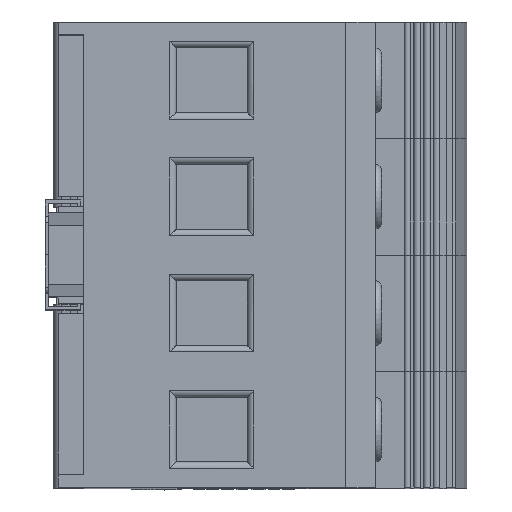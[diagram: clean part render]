
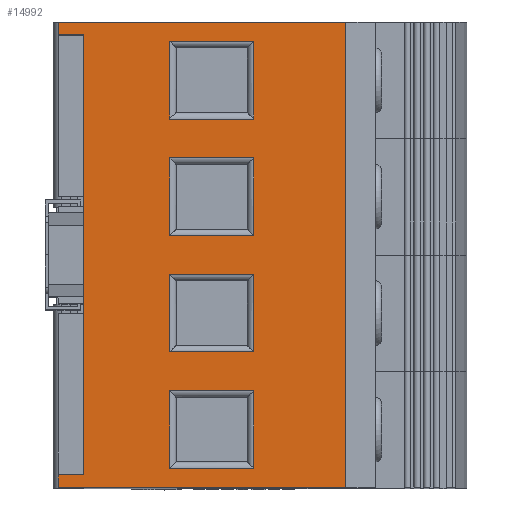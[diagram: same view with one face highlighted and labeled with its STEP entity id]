
A CAD part, top view. The second image highlights one B-rep face of the part: STEP entity #14992.
In plain terms, the highlighted planar face has unit normal (0, 0, 1).
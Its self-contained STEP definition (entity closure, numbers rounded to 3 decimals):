
#14785=CARTESIAN_POINT('',(-14.5,-36.,45.));
#14786=DIRECTION('',(0.,-0.,1.));
#14787=DIRECTION('',(-1.,0.,0.));
#14788=AXIS2_PLACEMENT_3D('',#14785,#14786,#14787);
#14789=PLANE('',#14788);
#14790=CARTESIAN_POINT('',(11.75,-21.,45.));
#14791=VERTEX_POINT('',#14790);
#14792=CARTESIAN_POINT('',(11.75,-33.,45.));
#14793=VERTEX_POINT('',#14792);
#14794=CARTESIAN_POINT('',(11.75,-21.,45.));
#14795=DIRECTION('',(0.,-1.,-0.));
#14796=VECTOR('',#14795,12.);
#14797=LINE('',#14794,#14796);
#14798=EDGE_CURVE('',#14791,#14793,#14797,.T.);
#14799=ORIENTED_EDGE('',*,*,#14798,.T.);
#14800=CARTESIAN_POINT('',(-1.25,-33.,45.));
#14801=VERTEX_POINT('',#14800);
#14802=CARTESIAN_POINT('',(11.75,-33.,45.));
#14803=DIRECTION('',(-1.,0.,0.));
#14804=VECTOR('',#14803,13.);
#14805=LINE('',#14802,#14804);
#14806=EDGE_CURVE('',#14793,#14801,#14805,.T.);
#14807=ORIENTED_EDGE('',*,*,#14806,.T.);
#14808=CARTESIAN_POINT('',(-1.25,-21.,45.));
#14809=VERTEX_POINT('',#14808);
#14810=CARTESIAN_POINT('',(-1.25,-33.,45.));
#14811=DIRECTION('',(-0.,1.,0.));
#14812=VECTOR('',#14811,12.);
#14813=LINE('',#14810,#14812);
#14814=EDGE_CURVE('',#14801,#14809,#14813,.T.);
#14815=ORIENTED_EDGE('',*,*,#14814,.T.);
#14816=CARTESIAN_POINT('',(-1.25,-21.,45.));
#14817=DIRECTION('',(1.,-0.,-0.));
#14818=VECTOR('',#14817,13.);
#14819=LINE('',#14816,#14818);
#14820=EDGE_CURVE('',#14809,#14791,#14819,.T.);
#14821=ORIENTED_EDGE('',*,*,#14820,.T.);
#14822=EDGE_LOOP('',(#14799,#14807,#14815,#14821));
#14823=FACE_BOUND('',#14822,.T.);
#14824=CARTESIAN_POINT('',(11.75,-15.,45.));
#14825=VERTEX_POINT('',#14824);
#14826=CARTESIAN_POINT('',(-1.25,-15.,45.));
#14827=VERTEX_POINT('',#14826);
#14828=CARTESIAN_POINT('',(11.75,-15.,45.));
#14829=DIRECTION('',(-1.,0.,0.));
#14830=VECTOR('',#14829,13.);
#14831=LINE('',#14828,#14830);
#14832=EDGE_CURVE('',#14825,#14827,#14831,.T.);
#14833=ORIENTED_EDGE('',*,*,#14832,.T.);
#14834=CARTESIAN_POINT('',(-1.25,-3.,45.));
#14835=VERTEX_POINT('',#14834);
#14836=CARTESIAN_POINT('',(-1.25,-15.,45.));
#14837=DIRECTION('',(-0.,1.,0.));
#14838=VECTOR('',#14837,12.);
#14839=LINE('',#14836,#14838);
#14840=EDGE_CURVE('',#14827,#14835,#14839,.T.);
#14841=ORIENTED_EDGE('',*,*,#14840,.T.);
#14842=CARTESIAN_POINT('',(11.75,-3.,45.));
#14843=VERTEX_POINT('',#14842);
#14844=CARTESIAN_POINT('',(-1.25,-3.,45.));
#14845=DIRECTION('',(1.,-0.,-0.));
#14846=VECTOR('',#14845,13.);
#14847=LINE('',#14844,#14846);
#14848=EDGE_CURVE('',#14835,#14843,#14847,.T.);
#14849=ORIENTED_EDGE('',*,*,#14848,.T.);
#14850=CARTESIAN_POINT('',(11.75,-3.,45.));
#14851=DIRECTION('',(0.,-1.,-0.));
#14852=VECTOR('',#14851,12.);
#14853=LINE('',#14850,#14852);
#14854=EDGE_CURVE('',#14843,#14825,#14853,.T.);
#14855=ORIENTED_EDGE('',*,*,#14854,.T.);
#14856=EDGE_LOOP('',(#14833,#14841,#14849,#14855));
#14857=FACE_BOUND('',#14856,.T.);
#14858=CARTESIAN_POINT('',(-1.25,33.,45.));
#14859=VERTEX_POINT('',#14858);
#14860=CARTESIAN_POINT('',(11.75,33.,45.));
#14861=VERTEX_POINT('',#14860);
#14862=CARTESIAN_POINT('',(-1.25,33.,45.));
#14863=DIRECTION('',(1.,-0.,-0.));
#14864=VECTOR('',#14863,13.);
#14865=LINE('',#14862,#14864);
#14866=EDGE_CURVE('',#14859,#14861,#14865,.T.);
#14867=ORIENTED_EDGE('',*,*,#14866,.T.);
#14868=CARTESIAN_POINT('',(11.75,21.,45.));
#14869=VERTEX_POINT('',#14868);
#14870=CARTESIAN_POINT('',(11.75,33.,45.));
#14871=DIRECTION('',(0.,-1.,-0.));
#14872=VECTOR('',#14871,12.);
#14873=LINE('',#14870,#14872);
#14874=EDGE_CURVE('',#14861,#14869,#14873,.T.);
#14875=ORIENTED_EDGE('',*,*,#14874,.T.);
#14876=CARTESIAN_POINT('',(-1.25,21.,45.));
#14877=VERTEX_POINT('',#14876);
#14878=CARTESIAN_POINT('',(11.75,21.,45.));
#14879=DIRECTION('',(-1.,0.,0.));
#14880=VECTOR('',#14879,13.);
#14881=LINE('',#14878,#14880);
#14882=EDGE_CURVE('',#14869,#14877,#14881,.T.);
#14883=ORIENTED_EDGE('',*,*,#14882,.T.);
#14884=CARTESIAN_POINT('',(-1.25,21.,45.));
#14885=DIRECTION('',(-0.,1.,0.));
#14886=VECTOR('',#14885,12.);
#14887=LINE('',#14884,#14886);
#14888=EDGE_CURVE('',#14877,#14859,#14887,.T.);
#14889=ORIENTED_EDGE('',*,*,#14888,.T.);
#14890=EDGE_LOOP('',(#14867,#14875,#14883,#14889));
#14891=FACE_BOUND('',#14890,.T.);
#14892=CARTESIAN_POINT('',(-1.25,15.,45.));
#14893=VERTEX_POINT('',#14892);
#14894=CARTESIAN_POINT('',(11.75,15.,45.));
#14895=VERTEX_POINT('',#14894);
#14896=CARTESIAN_POINT('',(-1.25,15.,45.));
#14897=DIRECTION('',(1.,-0.,-0.));
#14898=VECTOR('',#14897,13.);
#14899=LINE('',#14896,#14898);
#14900=EDGE_CURVE('',#14893,#14895,#14899,.T.);
#14901=ORIENTED_EDGE('',*,*,#14900,.T.);
#14902=CARTESIAN_POINT('',(11.75,3.,45.));
#14903=VERTEX_POINT('',#14902);
#14904=CARTESIAN_POINT('',(11.75,15.,45.));
#14905=DIRECTION('',(0.,-1.,-0.));
#14906=VECTOR('',#14905,12.);
#14907=LINE('',#14904,#14906);
#14908=EDGE_CURVE('',#14895,#14903,#14907,.T.);
#14909=ORIENTED_EDGE('',*,*,#14908,.T.);
#14910=CARTESIAN_POINT('',(-1.25,3.,45.));
#14911=VERTEX_POINT('',#14910);
#14912=CARTESIAN_POINT('',(11.75,3.,45.));
#14913=DIRECTION('',(-1.,0.,0.));
#14914=VECTOR('',#14913,13.);
#14915=LINE('',#14912,#14914);
#14916=EDGE_CURVE('',#14903,#14911,#14915,.T.);
#14917=ORIENTED_EDGE('',*,*,#14916,.T.);
#14918=CARTESIAN_POINT('',(-1.25,3.,45.));
#14919=DIRECTION('',(-0.,1.,0.));
#14920=VECTOR('',#14919,12.);
#14921=LINE('',#14918,#14920);
#14922=EDGE_CURVE('',#14911,#14893,#14921,.T.);
#14923=ORIENTED_EDGE('',*,*,#14922,.T.);
#14924=EDGE_LOOP('',(#14901,#14909,#14917,#14923));
#14925=FACE_BOUND('',#14924,.T.);
#14926=CARTESIAN_POINT('',(-18.5,36.,45.));
#14927=VERTEX_POINT('',#14926);
#14928=CARTESIAN_POINT('',(26.,36.,45.));
#14929=VERTEX_POINT('',#14928);
#14930=CARTESIAN_POINT('',(-18.5,36.,45.));
#14931=DIRECTION('',(1.,-0.,-0.));
#14932=VECTOR('',#14931,44.5);
#14933=LINE('',#14930,#14932);
#14934=EDGE_CURVE('',#14927,#14929,#14933,.T.);
#14935=ORIENTED_EDGE('',*,*,#14934,.F.);
#14936=CARTESIAN_POINT('',(-18.5,34.,45.));
#14937=VERTEX_POINT('',#14936);
#14938=CARTESIAN_POINT('',(-18.5,36.,45.));
#14939=DIRECTION('',(0.,-1.,-0.));
#14940=VECTOR('',#14939,2.);
#14941=LINE('',#14938,#14940);
#14942=EDGE_CURVE('',#14927,#14937,#14941,.T.);
#14943=ORIENTED_EDGE('',*,*,#14942,.T.);
#14944=CARTESIAN_POINT('',(-14.5,34.,45.));
#14945=VERTEX_POINT('',#14944);
#14946=CARTESIAN_POINT('',(-18.5,34.,45.));
#14947=DIRECTION('',(1.,-0.,-0.));
#14948=VECTOR('',#14947,4.);
#14949=LINE('',#14946,#14948);
#14950=EDGE_CURVE('',#14937,#14945,#14949,.T.);
#14951=ORIENTED_EDGE('',*,*,#14950,.T.);
#14952=CARTESIAN_POINT('',(-14.5,-34.,45.));
#14953=VERTEX_POINT('',#14952);
#14954=CARTESIAN_POINT('',(-14.5,-34.,45.));
#14955=DIRECTION('',(-0.,1.,0.));
#14956=VECTOR('',#14955,68.);
#14957=LINE('',#14954,#14956);
#14958=EDGE_CURVE('',#14953,#14945,#14957,.T.);
#14959=ORIENTED_EDGE('',*,*,#14958,.F.);
#14960=CARTESIAN_POINT('',(-18.5,-34.,45.));
#14961=VERTEX_POINT('',#14960);
#14962=CARTESIAN_POINT('',(-18.5,-34.,45.));
#14963=DIRECTION('',(1.,-0.,-0.));
#14964=VECTOR('',#14963,4.);
#14965=LINE('',#14962,#14964);
#14966=EDGE_CURVE('',#14961,#14953,#14965,.T.);
#14967=ORIENTED_EDGE('',*,*,#14966,.F.);
#14968=CARTESIAN_POINT('',(-18.5,-36.,45.));
#14969=VERTEX_POINT('',#14968);
#14970=CARTESIAN_POINT('',(-18.5,-34.,45.));
#14971=DIRECTION('',(0.,-1.,-0.));
#14972=VECTOR('',#14971,2.);
#14973=LINE('',#14970,#14972);
#14974=EDGE_CURVE('',#14961,#14969,#14973,.T.);
#14975=ORIENTED_EDGE('',*,*,#14974,.T.);
#14976=CARTESIAN_POINT('',(26.,-36.,45.));
#14977=VERTEX_POINT('',#14976);
#14978=CARTESIAN_POINT('',(-18.5,-36.,45.));
#14979=DIRECTION('',(1.,-0.,-0.));
#14980=VECTOR('',#14979,44.5);
#14981=LINE('',#14978,#14980);
#14982=EDGE_CURVE('',#14969,#14977,#14981,.T.);
#14983=ORIENTED_EDGE('',*,*,#14982,.T.);
#14984=CARTESIAN_POINT('',(26.,-36.,45.));
#14985=DIRECTION('',(-0.,1.,0.));
#14986=VECTOR('',#14985,72.);
#14987=LINE('',#14984,#14986);
#14988=EDGE_CURVE('',#14977,#14929,#14987,.T.);
#14989=ORIENTED_EDGE('',*,*,#14988,.T.);
#14990=EDGE_LOOP('',(#14935,#14943,#14951,#14959,#14967,#14975,#14983,#14989));
#14991=FACE_BOUND('',#14990,.T.);
#14992=ADVANCED_FACE('',(#14823,#14857,#14891,#14925,#14991),#14789,.T.);
